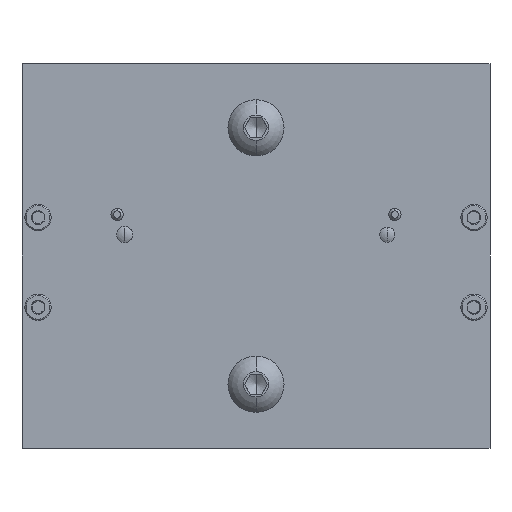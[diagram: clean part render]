
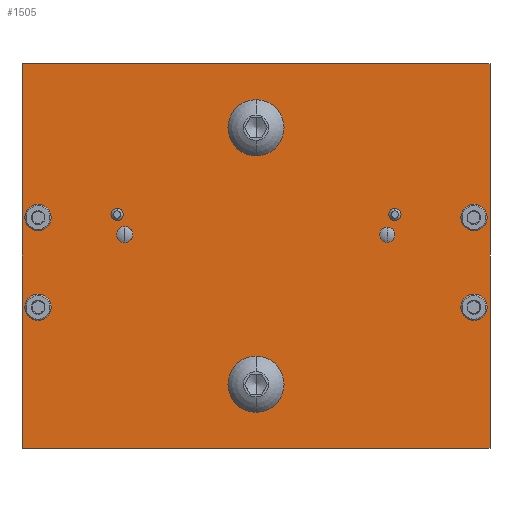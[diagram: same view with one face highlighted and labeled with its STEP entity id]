
A CAD part, front view. The second image highlights one B-rep face of the part: STEP entity #1505.
In plain terms, the highlighted planar face has unit normal (0, -1, 0).
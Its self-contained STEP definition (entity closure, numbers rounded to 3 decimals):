
#1505=ADVANCED_FACE('',(#2890,#2891,#2892,#2893,#2894,#2895,#2896,#2897,
#2898,#2899,#2193),#7257,.T.);
#2193=FACE_OUTER_BOUND('',#2977,.F.);
#2890=FACE_BOUND('',#2967,.F.);
#2891=FACE_BOUND('',#2968,.F.);
#2892=FACE_BOUND('',#2969,.F.);
#2893=FACE_BOUND('',#2970,.F.);
#2894=FACE_BOUND('',#2971,.F.);
#2895=FACE_BOUND('',#2972,.F.);
#2896=FACE_BOUND('',#2973,.F.);
#2897=FACE_BOUND('',#2974,.F.);
#2898=FACE_BOUND('',#2975,.F.);
#2899=FACE_BOUND('',#2976,.F.);
#2967=EDGE_LOOP('',(#3744,#3745));
#2968=EDGE_LOOP('',(#3746,#3747));
#2969=EDGE_LOOP('',(#3748,#3749));
#2970=EDGE_LOOP('',(#3750,#3751));
#2971=EDGE_LOOP('',(#3752,#3753));
#2972=EDGE_LOOP('',(#3754,#3755));
#2973=EDGE_LOOP('',(#3756,#3757));
#2974=EDGE_LOOP('',(#3758,#3759));
#2975=EDGE_LOOP('',(#3760,#3761));
#2976=EDGE_LOOP('',(#3762,#3763));
#2977=EDGE_LOOP('',(#3764,#3765,#3766,#3767));
#3744=ORIENTED_EDGE('',*,*,#8651,.T.);
#3745=ORIENTED_EDGE('',*,*,#8650,.T.);
#3746=ORIENTED_EDGE('',*,*,#8657,.T.);
#3747=ORIENTED_EDGE('',*,*,#8656,.T.);
#3748=ORIENTED_EDGE('',*,*,#8665,.T.);
#3749=ORIENTED_EDGE('',*,*,#8664,.T.);
#3750=ORIENTED_EDGE('',*,*,#8673,.T.);
#3751=ORIENTED_EDGE('',*,*,#8672,.T.);
#3752=ORIENTED_EDGE('',*,*,#8669,.T.);
#3753=ORIENTED_EDGE('',*,*,#8668,.T.);
#3754=ORIENTED_EDGE('',*,*,#8661,.T.);
#3755=ORIENTED_EDGE('',*,*,#8660,.T.);
#3756=ORIENTED_EDGE('',*,*,#8653,.T.);
#3757=ORIENTED_EDGE('',*,*,#8652,.T.);
#3758=ORIENTED_EDGE('',*,*,#8640,.T.);
#3759=ORIENTED_EDGE('',*,*,#8641,.T.);
#3760=ORIENTED_EDGE('',*,*,#8636,.T.);
#3761=ORIENTED_EDGE('',*,*,#8637,.T.);
#3762=ORIENTED_EDGE('',*,*,#8645,.T.);
#3763=ORIENTED_EDGE('',*,*,#8644,.T.);
#3764=ORIENTED_EDGE('',*,*,#8677,.F.);
#3765=ORIENTED_EDGE('',*,*,#8682,.F.);
#3766=ORIENTED_EDGE('',*,*,#8679,.T.);
#3767=ORIENTED_EDGE('',*,*,#8681,.T.);
#7257=PLANE('',#12618);
#7373=LINE('',#16466,#8005);
#7375=LINE('',#16468,#8007);
#7377=LINE('',#16470,#8009);
#7378=LINE('',#16471,#8010);
#8005=VECTOR('',#13692,76.2);
#8007=VECTOR('',#13694,76.2);
#8009=VECTOR('',#13696,92.7);
#8010=VECTOR('',#13697,92.7);
#8636=EDGE_CURVE('',#10809,#10808,#10404,.T.);
#8637=EDGE_CURVE('',#10808,#10809,#10405,.T.);
#8640=EDGE_CURVE('',#10805,#10804,#10408,.T.);
#8641=EDGE_CURVE('',#10804,#10805,#10409,.T.);
#8644=EDGE_CURVE('',#10801,#10800,#10412,.T.);
#8645=EDGE_CURVE('',#10800,#10801,#10413,.T.);
#8650=EDGE_CURVE('',#10795,#10794,#10418,.T.);
#8651=EDGE_CURVE('',#10794,#10795,#10419,.T.);
#8652=EDGE_CURVE('',#10793,#10792,#10420,.T.);
#8653=EDGE_CURVE('',#10792,#10793,#10421,.T.);
#8656=EDGE_CURVE('',#10789,#10788,#10424,.T.);
#8657=EDGE_CURVE('',#10788,#10789,#10425,.T.);
#8660=EDGE_CURVE('',#10785,#10784,#10428,.T.);
#8661=EDGE_CURVE('',#10784,#10785,#10429,.T.);
#8664=EDGE_CURVE('',#10781,#10780,#10432,.T.);
#8665=EDGE_CURVE('',#10780,#10781,#10433,.T.);
#8668=EDGE_CURVE('',#10777,#10776,#10436,.T.);
#8669=EDGE_CURVE('',#10776,#10777,#10437,.T.);
#8672=EDGE_CURVE('',#10773,#10772,#10440,.T.);
#8673=EDGE_CURVE('',#10772,#10773,#10441,.T.);
#8677=EDGE_CURVE('',#10767,#10766,#7373,.T.);
#8679=EDGE_CURVE('',#10763,#10762,#7375,.T.);
#8681=EDGE_CURVE('',#10762,#10766,#7377,.T.);
#8682=EDGE_CURVE('',#10763,#10767,#7378,.T.);
#10404=CIRCLE('',#12553,3.175);
#10405=CIRCLE('',#12554,3.175);
#10408=CIRCLE('',#12557,3.175);
#10409=CIRCLE('',#12558,3.175);
#10412=CIRCLE('',#12561,1.502);
#10413=CIRCLE('',#12562,1.502);
#10418=CIRCLE('',#12567,1.62);
#10419=CIRCLE('',#12568,1.62);
#10420=CIRCLE('',#12569,2.604);
#10421=CIRCLE('',#12570,2.604);
#10424=CIRCLE('',#12573,2.604);
#10425=CIRCLE('',#12574,2.604);
#10428=CIRCLE('',#12577,2.604);
#10429=CIRCLE('',#12578,2.604);
#10432=CIRCLE('',#12581,2.604);
#10433=CIRCLE('',#12582,2.604);
#10436=CIRCLE('',#12585,1.229);
#10437=CIRCLE('',#12586,1.229);
#10440=CIRCLE('',#12589,1.229);
#10441=CIRCLE('',#12590,1.229);
#10762=VERTEX_POINT('',#16377);
#10763=VERTEX_POINT('',#16378);
#10766=VERTEX_POINT('',#16381);
#10767=VERTEX_POINT('',#16382);
#10772=VERTEX_POINT('',#16387);
#10773=VERTEX_POINT('',#16388);
#10776=VERTEX_POINT('',#16391);
#10777=VERTEX_POINT('',#16392);
#10780=VERTEX_POINT('',#16395);
#10781=VERTEX_POINT('',#16396);
#10784=VERTEX_POINT('',#16399);
#10785=VERTEX_POINT('',#16400);
#10788=VERTEX_POINT('',#16403);
#10789=VERTEX_POINT('',#16404);
#10792=VERTEX_POINT('',#16407);
#10793=VERTEX_POINT('',#16408);
#10794=VERTEX_POINT('',#16409);
#10795=VERTEX_POINT('',#16410);
#10800=VERTEX_POINT('',#16415);
#10801=VERTEX_POINT('',#16416);
#10804=VERTEX_POINT('',#16419);
#10805=VERTEX_POINT('',#16420);
#10808=VERTEX_POINT('',#16423);
#10809=VERTEX_POINT('',#16424);
#12553=AXIS2_PLACEMENT_3D('',#16425,#13611,#13612);
#12554=AXIS2_PLACEMENT_3D('',#16426,#13613,#13614);
#12557=AXIS2_PLACEMENT_3D('',#16429,#13619,#13620);
#12558=AXIS2_PLACEMENT_3D('',#16430,#13621,#13622);
#12561=AXIS2_PLACEMENT_3D('',#16433,#13627,#13628);
#12562=AXIS2_PLACEMENT_3D('',#16434,#13629,#13630);
#12567=AXIS2_PLACEMENT_3D('',#16439,#13639,#13640);
#12568=AXIS2_PLACEMENT_3D('',#16440,#13641,#13642);
#12569=AXIS2_PLACEMENT_3D('',#16441,#13643,#13644);
#12570=AXIS2_PLACEMENT_3D('',#16442,#13645,#13646);
#12573=AXIS2_PLACEMENT_3D('',#16445,#13651,#13652);
#12574=AXIS2_PLACEMENT_3D('',#16446,#13653,#13654);
#12577=AXIS2_PLACEMENT_3D('',#16449,#13659,#13660);
#12578=AXIS2_PLACEMENT_3D('',#16450,#13661,#13662);
#12581=AXIS2_PLACEMENT_3D('',#16453,#13667,#13668);
#12582=AXIS2_PLACEMENT_3D('',#16454,#13669,#13670);
#12585=AXIS2_PLACEMENT_3D('',#16457,#13675,#13676);
#12586=AXIS2_PLACEMENT_3D('',#16458,#13677,#13678);
#12589=AXIS2_PLACEMENT_3D('',#16461,#13683,#13684);
#12590=AXIS2_PLACEMENT_3D('',#16462,#13685,#13686);
#12618=AXIS2_PLACEMENT_3D('',#16530,#13781,#13782);
#13611=DIRECTION('',(0.,-1.,0.));
#13612=DIRECTION('',(-1.,0.,0.));
#13613=DIRECTION('',(0.,-1.,0.));
#13614=DIRECTION('',(1.,0.,0.));
#13619=DIRECTION('',(0.,-1.,0.));
#13620=DIRECTION('',(-1.,0.,0.));
#13621=DIRECTION('',(0.,-1.,0.));
#13622=DIRECTION('',(1.,0.,0.));
#13627=DIRECTION('',(0.,-1.,0.));
#13628=DIRECTION('',(0.,0.,1.));
#13629=DIRECTION('',(0.,-1.,0.));
#13630=DIRECTION('',(0.,0.,-1.));
#13639=DIRECTION('',(0.,-1.,0.));
#13640=DIRECTION('',(0.,0.,-1.));
#13641=DIRECTION('',(0.,-1.,0.));
#13642=DIRECTION('',(0.,0.,1.));
#13643=DIRECTION('',(0.,-1.,0.));
#13644=DIRECTION('',(0.,0.,1.));
#13645=DIRECTION('',(0.,-1.,0.));
#13646=DIRECTION('',(0.,0.,-1.));
#13651=DIRECTION('',(0.,-1.,0.));
#13652=DIRECTION('',(0.,0.,1.));
#13653=DIRECTION('',(0.,-1.,0.));
#13654=DIRECTION('',(0.,0.,-1.));
#13659=DIRECTION('',(0.,-1.,0.));
#13660=DIRECTION('',(0.,0.,1.));
#13661=DIRECTION('',(0.,-1.,0.));
#13662=DIRECTION('',(0.,0.,-1.));
#13667=DIRECTION('',(0.,-1.,0.));
#13668=DIRECTION('',(0.,0.,1.));
#13669=DIRECTION('',(0.,-1.,0.));
#13670=DIRECTION('',(0.,0.,-1.));
#13675=DIRECTION('',(0.,-1.,0.));
#13676=DIRECTION('',(0.,0.,1.));
#13677=DIRECTION('',(0.,-1.,0.));
#13678=DIRECTION('',(0.,0.,-1.));
#13683=DIRECTION('',(0.,-1.,0.));
#13684=DIRECTION('',(0.,0.,1.));
#13685=DIRECTION('',(0.,-1.,0.));
#13686=DIRECTION('',(0.,0.,-1.));
#13692=DIRECTION('',(0.,0.,1.));
#13694=DIRECTION('',(0.,0.,1.));
#13696=DIRECTION('',(1.,0.,0.));
#13697=DIRECTION('',(1.,0.,0.));
#13781=DIRECTION('',(0.,-1.,0.));
#13782=DIRECTION('',(0.,0.,1.));
#16377=CARTESIAN_POINT('',(60.012,-32.705,114.3));
#16378=CARTESIAN_POINT('',(60.012,-32.705,38.1));
#16381=CARTESIAN_POINT('',(152.713,-32.705,114.3));
#16382=CARTESIAN_POINT('',(152.713,-32.705,38.1));
#16387=CARTESIAN_POINT('',(78.862,-32.705,83.201));
#16388=CARTESIAN_POINT('',(78.862,-32.705,85.659));
#16391=CARTESIAN_POINT('',(133.862,-32.705,83.201));
#16392=CARTESIAN_POINT('',(133.862,-32.705,85.659));
#16395=CARTESIAN_POINT('',(63.187,-32.705,81.217));
#16396=CARTESIAN_POINT('',(63.187,-32.705,86.424));
#16399=CARTESIAN_POINT('',(63.187,-32.705,63.437));
#16400=CARTESIAN_POINT('',(63.187,-32.705,68.644));
#16403=CARTESIAN_POINT('',(149.537,-32.705,63.437));
#16404=CARTESIAN_POINT('',(149.537,-32.705,68.644));
#16407=CARTESIAN_POINT('',(149.537,-32.705,81.217));
#16408=CARTESIAN_POINT('',(149.537,-32.705,86.424));
#16409=CARTESIAN_POINT('',(80.362,-32.705,82.05));
#16410=CARTESIAN_POINT('',(80.362,-32.705,78.81));
#16415=CARTESIAN_POINT('',(132.362,-32.705,78.928));
#16416=CARTESIAN_POINT('',(132.362,-32.705,81.932));
#16419=CARTESIAN_POINT('',(109.538,-32.705,101.6));
#16420=CARTESIAN_POINT('',(103.188,-32.705,101.6));
#16423=CARTESIAN_POINT('',(109.538,-32.705,50.8));
#16424=CARTESIAN_POINT('',(103.188,-32.705,50.8));
#16425=CARTESIAN_POINT('',(106.363,-32.705,50.8));
#16426=CARTESIAN_POINT('',(106.363,-32.705,50.8));
#16429=CARTESIAN_POINT('',(106.363,-32.705,101.6));
#16430=CARTESIAN_POINT('',(106.363,-32.705,101.6));
#16433=CARTESIAN_POINT('',(132.362,-32.705,80.43));
#16434=CARTESIAN_POINT('',(132.362,-32.705,80.43));
#16439=CARTESIAN_POINT('',(80.362,-32.705,80.43));
#16440=CARTESIAN_POINT('',(80.362,-32.705,80.43));
#16441=CARTESIAN_POINT('',(149.537,-32.705,83.82));
#16442=CARTESIAN_POINT('',(149.537,-32.705,83.82));
#16445=CARTESIAN_POINT('',(149.537,-32.705,66.04));
#16446=CARTESIAN_POINT('',(149.537,-32.705,66.04));
#16449=CARTESIAN_POINT('',(63.187,-32.705,66.04));
#16450=CARTESIAN_POINT('',(63.187,-32.705,66.04));
#16453=CARTESIAN_POINT('',(63.187,-32.705,83.82));
#16454=CARTESIAN_POINT('',(63.187,-32.705,83.82));
#16457=CARTESIAN_POINT('',(133.862,-32.705,84.43));
#16458=CARTESIAN_POINT('',(133.862,-32.705,84.43));
#16461=CARTESIAN_POINT('',(78.862,-32.705,84.43));
#16462=CARTESIAN_POINT('',(78.862,-32.705,84.43));
#16466=CARTESIAN_POINT('',(152.713,-32.705,38.1));
#16468=CARTESIAN_POINT('',(60.012,-32.705,38.1));
#16470=CARTESIAN_POINT('',(60.012,-32.705,114.3));
#16471=CARTESIAN_POINT('',(60.012,-32.705,38.1));
#16530=CARTESIAN_POINT('',(153.64,-32.705,37.173));
